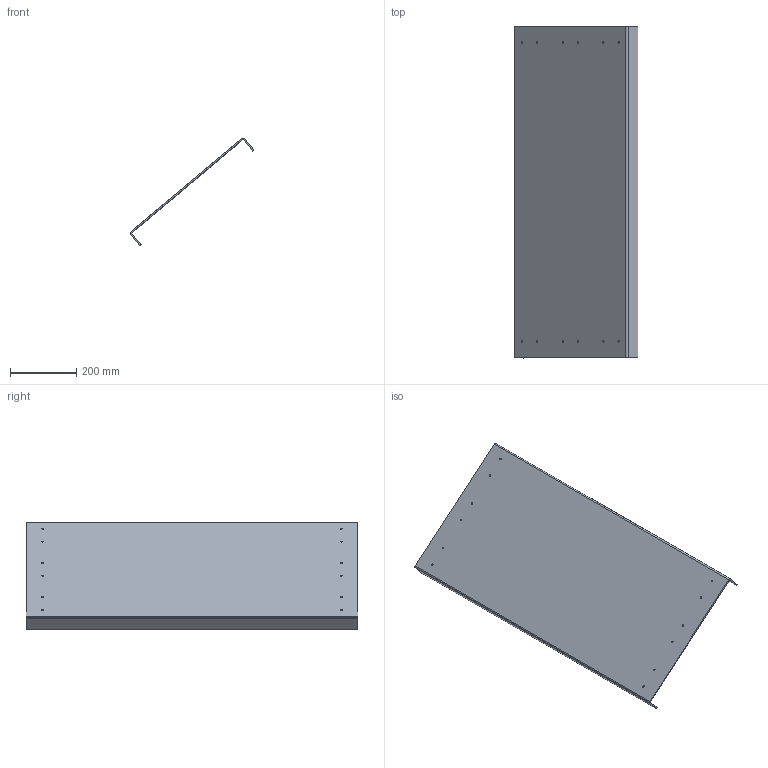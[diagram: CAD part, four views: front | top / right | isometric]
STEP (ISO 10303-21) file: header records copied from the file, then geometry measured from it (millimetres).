
FILE_DESCRIPTION(('HOOPS Exchange Step'),'2;1');
FILE_NAME('/private/var/mobile/Containers/Data/Application/E4481369-A8C6-45C6-A958-B1853E49479D/tmp/export/temp_export','2021-04-12T21:29:47+00:00',('mobile'),('Shapr3D Limited'),'HOOPS Exchange 2020.2','Shapr3D','Authorized');
FILE_SCHEMA( ('AP203_CONFIGURATION_CONTROLLED_3D_DESIGN_OF_MECHANICAL_PARTS_AND_ASSEMBLIES_MIM_LF') );
Length unit declared in the file: millimetre
Products named in the file (2): 0; /private/var/mobile/Containers/Data/Application/E4481369-A8C6-45C6-A958-B1853E49479D/tmp/0A3AD1F8-D29D-48A9-BF93-C89D23912D04.tmp
Assembly tree (1 placements, depth 2):
  /private/var/mobile/Containers/Data/Application/E4481369-A8C6-45C6-A958-B1853E49479D/tmp/0A3AD1F8-D29D-48A9-BF93-C89D23912D04.tmp
    0
Bounding box: 373.28 x 1000 x 324.23 mm (x, y, z)
Volume: 2148676.3 mm3; surface area: 1087414.8 mm2
Topology: 1 solids, 1 shells, 32 faces, 114 edges, 84 vertices
Faces by surface type: cylinder 22, plane 10
Full cylindrical faces by diameter (mm): 5.2 x12
Entity records: 1393 total; most frequent: DIRECTION 252, CARTESIAN_POINT 233, ORIENTED_EDGE 228, EDGE_CURVE 114, AXIS2_PLACEMENT_3D 103, VERTEX_POINT 84, CIRCLE 68, EDGE_LOOP 56
